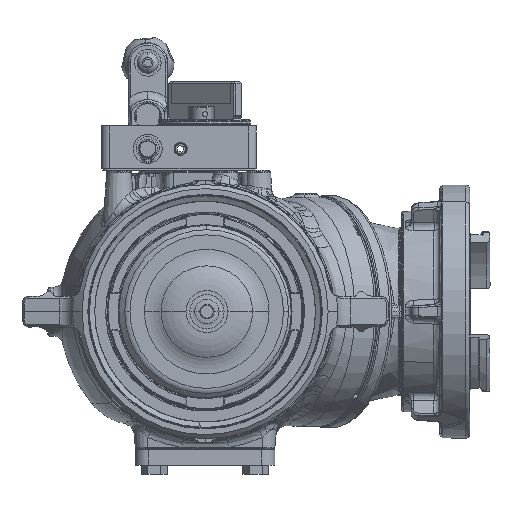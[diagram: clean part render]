
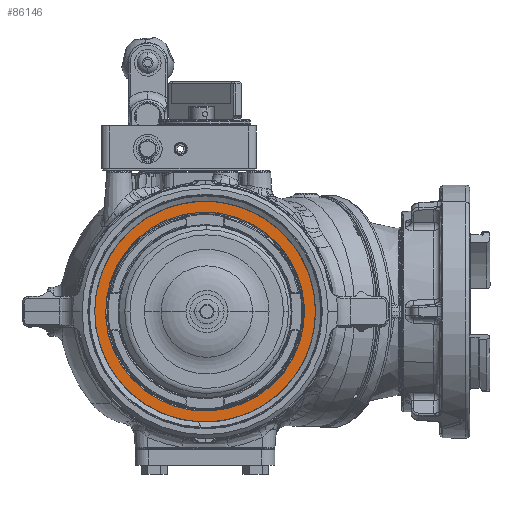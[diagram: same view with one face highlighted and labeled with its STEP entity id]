
A CAD part, left-side view. The second image highlights one B-rep face of the part: STEP entity #86146.
In plain terms, the highlighted planar face has unit normal (-1, 0, 0).
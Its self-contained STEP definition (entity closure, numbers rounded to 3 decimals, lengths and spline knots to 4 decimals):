
#8971 = CARTESIAN_POINT ( 'NONE',  ( -4.075, 3.0058, 0.3943 ) ) ;
#9959 = ORIENTED_EDGE ( 'NONE', *, *, #110225, .T. ) ;
#23773 = CARTESIAN_POINT ( 'NONE',  ( -4.075, 0.3943, -3.0058 ) ) ;
#24430 = DIRECTION ( 'NONE',  ( 0., 0.992, 0.13 ) ) ;
#26933 = EDGE_LOOP ( 'NONE', ( #113016, #207623 ) ) ;
#32783 = FACE_OUTER_BOUND ( 'NONE', #204789, .T. ) ;
#33614 = AXIS2_PLACEMENT_3D ( 'NONE', #23773, #154472, #81055 ) ;
#38680 = FACE_BOUND ( 'NONE', #26933, .T. ) ;
#66790 = DIRECTION ( 'NONE',  ( -1., 0., 0. ) ) ;
#70236 = CIRCLE ( 'NONE', #125006, 3.5625 ) ;
#72451 = EDGE_CURVE ( 'NONE', #138678, #126562, #70236, .T. ) ;
#74844 = AXIS2_PLACEMENT_3D ( 'NONE', #178594, #66790, #203787 ) ;
#81055 = DIRECTION ( 'NONE',  ( 0., -0.992, -0.13 ) ) ;
#86146 = ADVANCED_FACE ( 'NONE', ( #38680, #32783 ), #96554, .F. ) ;
#92482 = DIRECTION ( 'NONE',  ( -1., 0., 0. ) ) ;
#96554 = PLANE ( 'NONE',  #33614 ) ;
#110225 = EDGE_CURVE ( 'NONE', #126562, #138678, #181778, .T. ) ;
#113016 = ORIENTED_EDGE ( 'NONE', *, *, #149524, .F. ) ;
#116098 = CARTESIAN_POINT ( 'NONE',  ( -4.075, 0., 0. ) ) ;
#119281 = VERTEX_POINT ( 'NONE', #127389 ) ;
#125006 = AXIS2_PLACEMENT_3D ( 'NONE', #137995, #232584, #24430 ) ;
#126562 = VERTEX_POINT ( 'NONE', #220250 ) ;
#127389 = CARTESIAN_POINT ( 'NONE',  ( -4.075, -3.0058, -0.3943 ) ) ;
#135615 = AXIS2_PLACEMENT_3D ( 'NONE', #116098, #212293, #192776 ) ;
#137995 = CARTESIAN_POINT ( 'NONE',  ( -4.075, 0., 0. ) ) ;
#138678 = VERTEX_POINT ( 'NONE', #227316 ) ;
#149524 = EDGE_CURVE ( 'NONE', #201714, #119281, #240776, .T. ) ;
#154472 = DIRECTION ( 'NONE',  ( 1., 0., 0. ) ) ;
#166660 = DIRECTION ( 'NONE',  ( 0., 0.992, 0.13 ) ) ;
#178594 = CARTESIAN_POINT ( 'NONE',  ( -4.075, 0., 0. ) ) ;
#181778 = CIRCLE ( 'NONE', #74844, 3.5625 ) ;
#181937 = ORIENTED_EDGE ( 'NONE', *, *, #72451, .T. ) ;
#186278 = CARTESIAN_POINT ( 'NONE',  ( -4.075, 0., 0. ) ) ;
#192776 = DIRECTION ( 'NONE',  ( 0., 0.992, 0.13 ) ) ;
#201714 = VERTEX_POINT ( 'NONE', #8971 ) ;
#203787 = DIRECTION ( 'NONE',  ( 0., 0.992, 0.13 ) ) ;
#204789 = EDGE_LOOP ( 'NONE', ( #9959, #181937 ) ) ;
#207623 = ORIENTED_EDGE ( 'NONE', *, *, #242185, .F. ) ;
#212293 = DIRECTION ( 'NONE',  ( -1., 0., 0. ) ) ;
#217742 = CIRCLE ( 'NONE', #232259, 3.0315 ) ;
#220250 = CARTESIAN_POINT ( 'NONE',  ( -4.075, 3.5322, 0.4633 ) ) ;
#227316 = CARTESIAN_POINT ( 'NONE',  ( -4.075, -3.5322, -0.4633 ) ) ;
#232259 = AXIS2_PLACEMENT_3D ( 'NONE', #186278, #92482, #166660 ) ;
#232584 = DIRECTION ( 'NONE',  ( -1., 0., 0. ) ) ;
#240776 = CIRCLE ( 'NONE', #135615, 3.0315 ) ;
#242185 = EDGE_CURVE ( 'NONE', #119281, #201714, #217742, .T. ) ;
